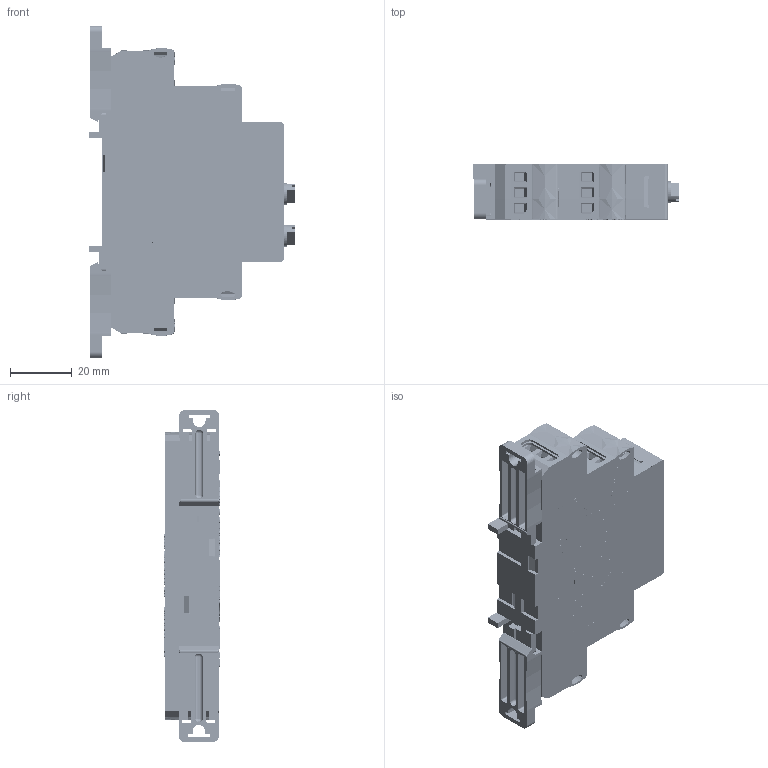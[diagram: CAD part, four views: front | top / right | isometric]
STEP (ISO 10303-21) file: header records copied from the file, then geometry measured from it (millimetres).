
FILE_DESCRIPTION(('STEP AP203'), '1');
FILE_NAME('ﾑ碚濱ﾐﾊﾍ-1-1-15ﾌ', '', ('UNSPECIFIED'), ('UNSPECIFIED'), 'ASCON STEP Converter 1.6', 'ASCON Math Kernel', '');
FILE_SCHEMA(('CONFIG_CONTROL_DESIGN'));
Length unit declared in the file: millimetre
Products named in the file (19): Case13-18-23mm_2step_Half_v01a_Build20140909_1552_6.5mm; Case13-18-23mm_2step_Half_v01a_Build20140909_1552_11.25mm; Case13-18-23mm_2step_plug_v01_Build20140909_1552_18mm; Case13-18-23mm_2step_Lock_v01a_Build20140909_1552; Клемма DG128-5.08-3; Case13-18-23mm_2step_Face_v01_Build20140909_1552_18mm; R-knob_2017_Hex2mm__Џｮ гｬｮｫзｭЁо
Assembly tree (25 placements, depth 3):
  (unnamed)
    Case13-18-23mm_2step_Half_v01a_Build20140909_1552_6.5mm
    Case13-18-23mm_2step_Half_v01a_Build20140909_1552_11.25mm
    Case13-18-23mm_2step_plug_v01_Build20140909_1552_18mm  x2
    Case13-18-23mm_2step_Lock_v01a_Build20140909_1552  x2
    (unnamed)  x2
    Клемма DG128-5.08-3  x2
      (unnamed)
    Case13-18-23mm_2step_Face_v01_Build20140909_1552_18mm
    R-knob_2017_Hex2mm__Џｮ гｬｮｫзｭЁо  x2
    (unnamed)
    (unnamed)
    (unnamed)
    (unnamed)
    (unnamed)
    (unnamed)
    (unnamed)
    (unnamed)
    (unnamed)
Bounding box: 66.26 x 17.77 x 107.2 mm (x, y, z)
Volume: 25886.4 mm3; surface area: 42729.7 mm2
Topology: 590 solids, 590 shells, 20613 faces, 57987 edges, 38580 vertices
Faces by surface type: plane 14558, extrusion 5697, cylinder 286, cone 42, torus 18, sphere 8, bspline 4
Full cylindrical faces by diameter (mm): 1.238 x6, 2.1 x4, 3.9 x10, 4.5 x2, 5 x2
Entity records: 834355 total; most frequent: CARTESIAN_POINT 169788, ORIENTED_EDGE 113428, DIRECTION 80339, EDGE_CURVE 56714, VECTOR 50487, LINE 44790, VERTEX_POINT 37785, EDGE_LOOP 20701
